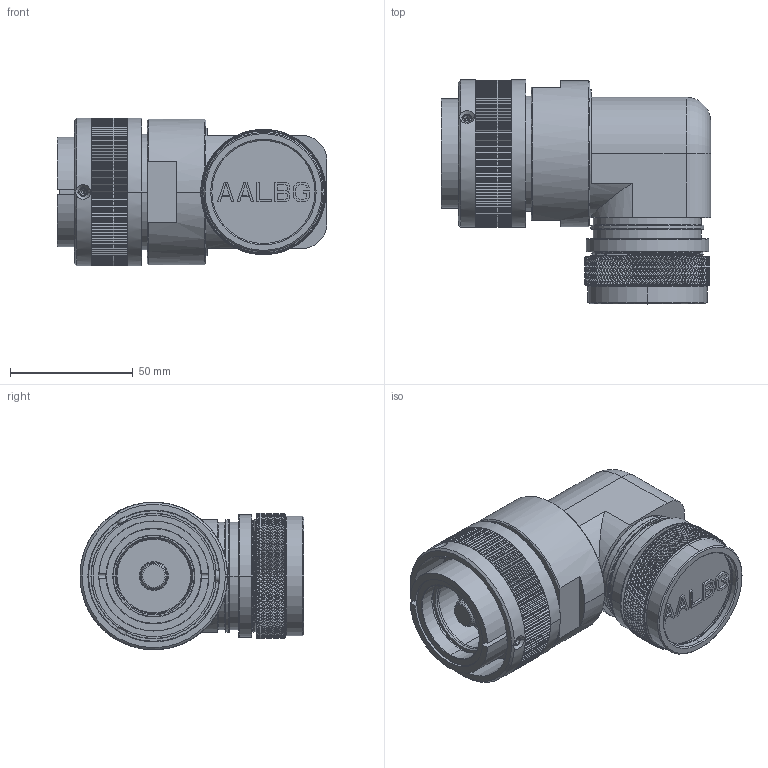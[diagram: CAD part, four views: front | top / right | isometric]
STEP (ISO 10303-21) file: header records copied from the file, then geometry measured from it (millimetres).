
FILE_DESCRIPTION((''),'2;1');
FILE_NAME('GCE3108E32M240P-B-T14_SW0001','2023-06-01T16:33:30',('paultorloting'),('NET AG system integration'),'CREO PARAMETRIC BY PTC INC, 2021404','CREO PARAMETRIC BY PTC INC, 2021404','');
FILE_SCHEMA(('AUTOMOTIVE_DESIGN { 1 0 10303 214 1 1 1 1 }'));
Length unit declared in the file: millimetre
Products named in the file (1): GCE3108E32M240P-B-T14_SW0001
Bounding box: 109.8 x 91.25 x 60.1 mm (x, y, z)
Surface area: 55838 mm2
Topology: 3 solids, 4 shells, 6919 faces, 14426 edges, 7660 vertices
Faces by surface type: bspline 3128, plane 2276, cylinder 1003, cone 457, torus 55
Entity records: 240871 total; most frequent: CARTESIAN_POINT 119611, ORIENTED_EDGE 28720, EDGE_CURVE 14360, DIRECTION 13581, B_SPLINE_CURVE_WITH_KNOTS 9448, VERTEX_POINT 7623, EDGE_LOOP 7099, FACE_OUTER_BOUND 6919
